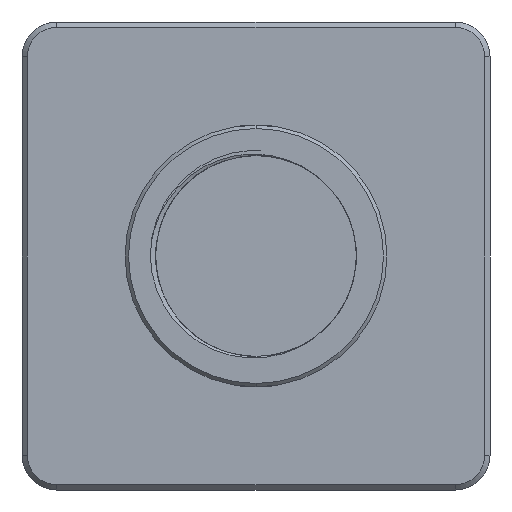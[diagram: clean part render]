
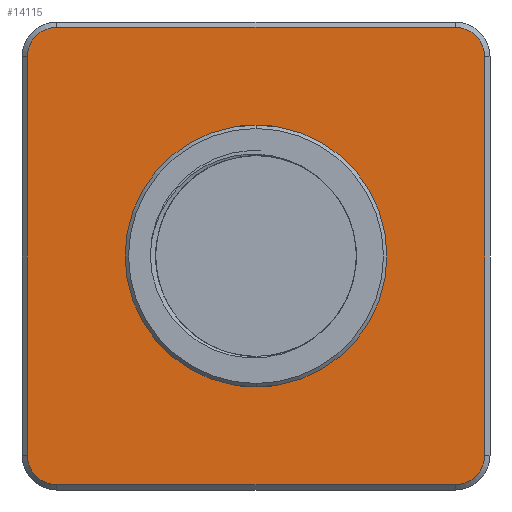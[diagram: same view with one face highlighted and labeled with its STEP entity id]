
A CAD part, front view. The second image highlights one B-rep face of the part: STEP entity #14115.
In plain terms, the highlighted planar face has unit normal (0, -1, 0).
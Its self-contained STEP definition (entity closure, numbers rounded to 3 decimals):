
#316 = CARTESIAN_POINT ( 'NONE',  ( -11.4, 0., 13.1 ) ) ;
#521 = DIRECTION ( 'NONE',  ( 0., -1., 0. ) ) ;
#1275 = AXIS2_PLACEMENT_3D ( 'NONE', #29607, #53341, #5880 ) ;
#2143 = AXIS2_PLACEMENT_3D ( 'NONE', #52738, #24639, #43685 ) ;
#2781 = AXIS2_PLACEMENT_3D ( 'NONE', #28912, #521, #44213 ) ;
#2903 = ORIENTED_EDGE ( 'NONE', *, *, #42925, .T. ) ;
#2974 = DIRECTION ( 'NONE',  ( 0., 0., 1. ) ) ;
#3670 = VERTEX_POINT ( 'NONE', #316 ) ;
#3824 = LINE ( 'NONE', #40677, #52329 ) ;
#4360 = VERTEX_POINT ( 'NONE', #8948 ) ;
#5880 = DIRECTION ( 'NONE',  ( 0., 0., 1. ) ) ;
#6590 = VECTOR ( 'NONE', #57206, 1000. ) ;
#7606 = ORIENTED_EDGE ( 'NONE', *, *, #53415, .T. ) ;
#7712 = AXIS2_PLACEMENT_3D ( 'NONE', #10614, #33751, #48090 ) ;
#8350 = ORIENTED_EDGE ( 'NONE', *, *, #37484, .T. ) ;
#8576 = CIRCLE ( 'NONE', #14539, 7.5 ) ;
#8619 = ORIENTED_EDGE ( 'NONE', *, *, #55350, .T. ) ;
#8735 = CARTESIAN_POINT ( 'NONE',  ( 11.4, 0., -13.1 ) ) ;
#8948 = CARTESIAN_POINT ( 'NONE',  ( 11.4, 0., 13.1 ) ) ;
#9166 = FACE_BOUND ( 'NONE', #34910, .T. ) ;
#9658 = CIRCLE ( 'NONE', #7712, 1.7 ) ;
#10539 = CIRCLE ( 'NONE', #60404, 1.7 ) ;
#10614 = CARTESIAN_POINT ( 'NONE',  ( -11.4, 0., -11.4 ) ) ;
#10736 = CARTESIAN_POINT ( 'NONE',  ( -13.1, 0., 11.4 ) ) ;
#13816 = CARTESIAN_POINT ( 'NONE',  ( -13.4, 0., 13.1 ) ) ;
#14115 = ADVANCED_FACE ( 'NONE', ( #14176, #9166 ), #28497, .F. ) ;
#14176 = FACE_OUTER_BOUND ( 'NONE', #34016, .T. ) ;
#14539 = AXIS2_PLACEMENT_3D ( 'NONE', #18313, #56360, #27347 ) ;
#15021 = CARTESIAN_POINT ( 'NONE',  ( -11.4, 0., -13.1 ) ) ;
#16446 = LINE ( 'NONE', #35782, #35196 ) ;
#17328 = LINE ( 'NONE', #60994, #23221 ) ;
#18313 = CARTESIAN_POINT ( 'NONE',  ( 0., 0., 0. ) ) ;
#19049 = VERTEX_POINT ( 'NONE', #61433 ) ;
#20055 = EDGE_CURVE ( 'NONE', #31343, #39695, #50105, .T. ) ;
#22559 = DIRECTION ( 'NONE',  ( 0., 0., -1. ) ) ;
#23221 = VECTOR ( 'NONE', #32292, 1000. ) ;
#24639 = DIRECTION ( 'NONE',  ( 0., -1., 0. ) ) ;
#25093 = ORIENTED_EDGE ( 'NONE', *, *, #20055, .F. ) ;
#27347 = DIRECTION ( 'NONE',  ( 0., 0., 1. ) ) ;
#27383 = ORIENTED_EDGE ( 'NONE', *, *, #32453, .T. ) ;
#28497 = PLANE ( 'NONE',  #49745 ) ;
#28912 = CARTESIAN_POINT ( 'NONE',  ( -11.4, 0., 11.4 ) ) ;
#29091 = CARTESIAN_POINT ( 'NONE',  ( 0., 0., 7.5 ) ) ;
#29607 = CARTESIAN_POINT ( 'NONE',  ( 0., 0., 0. ) ) ;
#31343 = VERTEX_POINT ( 'NONE', #47883 ) ;
#32292 = DIRECTION ( 'NONE',  ( 0., 0., 1. ) ) ;
#32453 = EDGE_CURVE ( 'NONE', #19049, #4360, #47014, .T. ) ;
#32844 = VERTEX_POINT ( 'NONE', #10736 ) ;
#33751 = DIRECTION ( 'NONE',  ( 0., -1., 0. ) ) ;
#34016 = EDGE_LOOP ( 'NONE', ( #8619, #2903, #7606, #59340, #27383, #51593, #8350, #56851 ) ) ;
#34796 = VERTEX_POINT ( 'NONE', #35338 ) ;
#34910 = EDGE_LOOP ( 'NONE', ( #55778, #25093 ) ) ;
#35196 = VECTOR ( 'NONE', #40464, 1000. ) ;
#35338 = CARTESIAN_POINT ( 'NONE',  ( 13.1, 0., -11.4 ) ) ;
#35782 = CARTESIAN_POINT ( 'NONE',  ( -13.4, 0., -13.1 ) ) ;
#37484 = EDGE_CURVE ( 'NONE', #3670, #32844, #61618, .T. ) ;
#38224 = CARTESIAN_POINT ( 'NONE',  ( -13.4, 0., 13.4 ) ) ;
#39695 = VERTEX_POINT ( 'NONE', #29091 ) ;
#40464 = DIRECTION ( 'NONE',  ( 1., 0., 0. ) ) ;
#40677 = CARTESIAN_POINT ( 'NONE',  ( -13.1, 0., 13.4 ) ) ;
#42925 = EDGE_CURVE ( 'NONE', #56628, #56926, #16446, .T. ) ;
#43685 = DIRECTION ( 'NONE',  ( 0., 0., 1. ) ) ;
#44213 = DIRECTION ( 'NONE',  ( 0., 0., 1. ) ) ;
#44677 = EDGE_CURVE ( 'NONE', #34796, #19049, #17328, .T. ) ;
#47014 = CIRCLE ( 'NONE', #2143, 1.7 ) ;
#47249 = DIRECTION ( 'NONE',  ( 0., 0., 1. ) ) ;
#47834 = DIRECTION ( 'NONE',  ( 0., 1., 0. ) ) ;
#47883 = CARTESIAN_POINT ( 'NONE',  ( 0., 0., -7.5 ) ) ;
#48090 = DIRECTION ( 'NONE',  ( 0., 0., 1. ) ) ;
#49745 = AXIS2_PLACEMENT_3D ( 'NONE', #38224, #47834, #47249 ) ;
#50105 = CIRCLE ( 'NONE', #1275, 7.5 ) ;
#51593 = ORIENTED_EDGE ( 'NONE', *, *, #53938, .T. ) ;
#51957 = CARTESIAN_POINT ( 'NONE',  ( 11.4, 0., -11.4 ) ) ;
#52329 = VECTOR ( 'NONE', #22559, 1000. ) ;
#52371 = EDGE_CURVE ( 'NONE', #32844, #58396, #3824, .T. ) ;
#52738 = CARTESIAN_POINT ( 'NONE',  ( 11.4, 0., 11.4 ) ) ;
#52782 = LINE ( 'NONE', #13816, #6590 ) ;
#53304 = EDGE_CURVE ( 'NONE', #39695, #31343, #8576, .T. ) ;
#53341 = DIRECTION ( 'NONE',  ( 0., -1., 0. ) ) ;
#53415 = EDGE_CURVE ( 'NONE', #56926, #34796, #10539, .T. ) ;
#53938 = EDGE_CURVE ( 'NONE', #4360, #3670, #52782, .T. ) ;
#55350 = EDGE_CURVE ( 'NONE', #58396, #56628, #9658, .T. ) ;
#55429 = DIRECTION ( 'NONE',  ( 0., -1., 0. ) ) ;
#55778 = ORIENTED_EDGE ( 'NONE', *, *, #53304, .F. ) ;
#56360 = DIRECTION ( 'NONE',  ( 0., -1., 0. ) ) ;
#56628 = VERTEX_POINT ( 'NONE', #15021 ) ;
#56851 = ORIENTED_EDGE ( 'NONE', *, *, #52371, .T. ) ;
#56926 = VERTEX_POINT ( 'NONE', #8735 ) ;
#57206 = DIRECTION ( 'NONE',  ( -1., 0., 0. ) ) ;
#58396 = VERTEX_POINT ( 'NONE', #60662 ) ;
#59340 = ORIENTED_EDGE ( 'NONE', *, *, #44677, .T. ) ;
#60404 = AXIS2_PLACEMENT_3D ( 'NONE', #51957, #55429, #2974 ) ;
#60662 = CARTESIAN_POINT ( 'NONE',  ( -13.1, 0., -11.4 ) ) ;
#60994 = CARTESIAN_POINT ( 'NONE',  ( 13.1, 0., 13.4 ) ) ;
#61433 = CARTESIAN_POINT ( 'NONE',  ( 13.1, 0., 11.4 ) ) ;
#61618 = CIRCLE ( 'NONE', #2781, 1.7 ) ;
